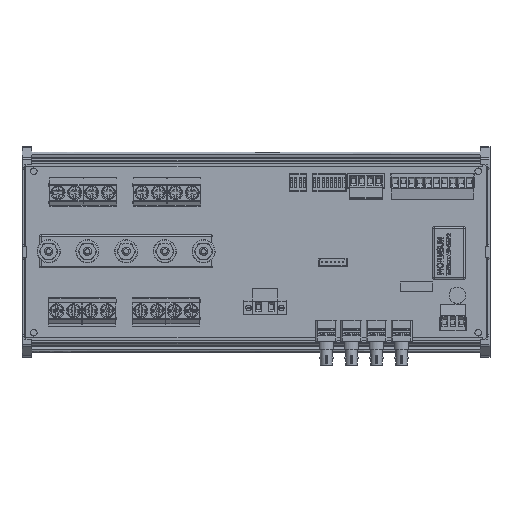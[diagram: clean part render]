
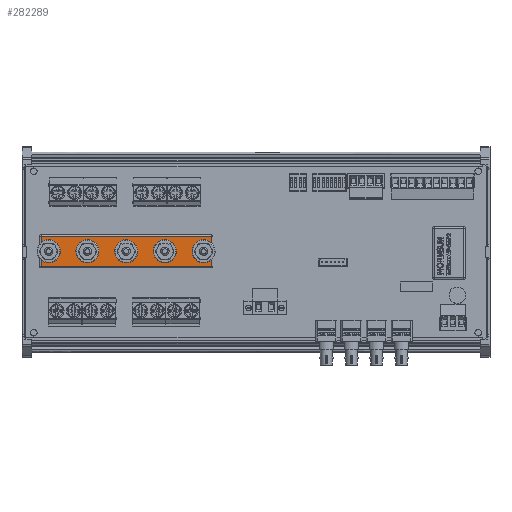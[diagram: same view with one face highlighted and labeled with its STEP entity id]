
A CAD part, top view. The second image highlights one B-rep face of the part: STEP entity #282289.
In plain terms, the highlighted planar face has unit normal (0, 0, 1).
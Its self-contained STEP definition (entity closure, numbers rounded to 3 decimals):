
#281712 = CYLINDRICAL_SURFACE('',#281713,1.);
#281713 = AXIS2_PLACEMENT_3D('',#281714,#281715,#281716);
#281714 = CARTESIAN_POINT('',(1.,0.,4.));
#281715 = DIRECTION('',(0.,1.,0.));
#281716 = DIRECTION('',(-1.,0.,0.));
#281895 = VERTEX_POINT('',#281896);
#281896 = CARTESIAN_POINT('',(1.,1.,5.));
#281916 = EDGE_CURVE('',#281895,#281917,#281919,.T.);
#281917 = VERTEX_POINT('',#281918);
#281918 = CARTESIAN_POINT('',(1.,19.,5.));
#281919 = SURFACE_CURVE('',#281920,(#281924,#281931),.PCURVE_S1.);
#281920 = LINE('',#281921,#281922);
#281921 = CARTESIAN_POINT('',(1.,0.,5.));
#281922 = VECTOR('',#281923,1.);
#281923 = DIRECTION('',(0.,1.,0.));
#281924 = PCURVE('',#281712,#281925);
#281925 = DEFINITIONAL_REPRESENTATION('',(#281926),#281930);
#281926 = LINE('',#281927,#281928);
#281927 = CARTESIAN_POINT('',(1.571,0.));
#281928 = VECTOR('',#281929,1.);
#281929 = DIRECTION('',(0.,1.));
#281930 = ( GEOMETRIC_REPRESENTATION_CONTEXT(2) 
PARAMETRIC_REPRESENTATION_CONTEXT() REPRESENTATION_CONTEXT('2D SPACE',''
  ) );
#281931 = PCURVE('',#281932,#281937);
#281932 = PLANE('',#281933);
#281933 = AXIS2_PLACEMENT_3D('',#281934,#281935,#281936);
#281934 = CARTESIAN_POINT('',(0.,0.,5.));
#281935 = DIRECTION('',(0.,0.,1.));
#281936 = DIRECTION('',(1.,0.,0.));
#281937 = DEFINITIONAL_REPRESENTATION('',(#281938),#281942);
#281938 = LINE('',#281939,#281940);
#281939 = CARTESIAN_POINT('',(1.,0.));
#281940 = VECTOR('',#281941,1.);
#281941 = DIRECTION('',(0.,1.));
#281942 = ( GEOMETRIC_REPRESENTATION_CONTEXT(2) 
PARAMETRIC_REPRESENTATION_CONTEXT() REPRESENTATION_CONTEXT('2D SPACE',''
  ) );
#282096 = CYLINDRICAL_SURFACE('',#282097,1.);
#282097 = AXIS2_PLACEMENT_3D('',#282098,#282099,#282100);
#282098 = CARTESIAN_POINT('',(0.,1.,4.));
#282099 = DIRECTION('',(1.,0.,0.));
#282100 = DIRECTION('',(0.,-1.,0.));
#282289 = ADVANCED_FACE('',(#282290),#281932,.T.);
#282290 = FACE_BOUND('',#282291,.T.);
#282291 = EDGE_LOOP('',(#282292,#282293,#282316,#282344));
#282292 = ORIENTED_EDGE('',*,*,#281916,.F.);
#282293 = ORIENTED_EDGE('',*,*,#282294,.T.);
#282294 = EDGE_CURVE('',#281895,#282295,#282297,.T.);
#282295 = VERTEX_POINT('',#282296);
#282296 = CARTESIAN_POINT('',(104.3,1.,5.));
#282297 = SURFACE_CURVE('',#282298,(#282302,#282309),.PCURVE_S1.);
#282298 = LINE('',#282299,#282300);
#282299 = CARTESIAN_POINT('',(0.,1.,5.));
#282300 = VECTOR('',#282301,1.);
#282301 = DIRECTION('',(1.,0.,0.));
#282302 = PCURVE('',#281932,#282303);
#282303 = DEFINITIONAL_REPRESENTATION('',(#282304),#282308);
#282304 = LINE('',#282305,#282306);
#282305 = CARTESIAN_POINT('',(0.,1.));
#282306 = VECTOR('',#282307,1.);
#282307 = DIRECTION('',(1.,0.));
#282308 = ( GEOMETRIC_REPRESENTATION_CONTEXT(2) 
PARAMETRIC_REPRESENTATION_CONTEXT() REPRESENTATION_CONTEXT('2D SPACE',''
  ) );
#282309 = PCURVE('',#282096,#282310);
#282310 = DEFINITIONAL_REPRESENTATION('',(#282311),#282315);
#282311 = LINE('',#282312,#282313);
#282312 = CARTESIAN_POINT('',(4.712,0.));
#282313 = VECTOR('',#282314,1.);
#282314 = DIRECTION('',(0.,1.));
#282315 = ( GEOMETRIC_REPRESENTATION_CONTEXT(2) 
PARAMETRIC_REPRESENTATION_CONTEXT() REPRESENTATION_CONTEXT('2D SPACE',''
  ) );
#282316 = ORIENTED_EDGE('',*,*,#282317,.T.);
#282317 = EDGE_CURVE('',#282295,#282318,#282320,.T.);
#282318 = VERTEX_POINT('',#282319);
#282319 = CARTESIAN_POINT('',(104.3,19.,5.));
#282320 = SURFACE_CURVE('',#282321,(#282325,#282332),.PCURVE_S1.);
#282321 = LINE('',#282322,#282323);
#282322 = CARTESIAN_POINT('',(104.3,0.,5.));
#282323 = VECTOR('',#282324,1.);
#282324 = DIRECTION('',(0.,1.,0.));
#282325 = PCURVE('',#281932,#282326);
#282326 = DEFINITIONAL_REPRESENTATION('',(#282327),#282331);
#282327 = LINE('',#282328,#282329);
#282328 = CARTESIAN_POINT('',(104.3,0.));
#282329 = VECTOR('',#282330,1.);
#282330 = DIRECTION('',(0.,1.));
#282331 = ( GEOMETRIC_REPRESENTATION_CONTEXT(2) 
PARAMETRIC_REPRESENTATION_CONTEXT() REPRESENTATION_CONTEXT('2D SPACE',''
  ) );
#282332 = PCURVE('',#282333,#282338);
#282333 = CYLINDRICAL_SURFACE('',#282334,1.);
#282334 = AXIS2_PLACEMENT_3D('',#282335,#282336,#282337);
#282335 = CARTESIAN_POINT('',(104.3,0.,4.));
#282336 = DIRECTION('',(0.,1.,0.));
#282337 = DIRECTION('',(1.,0.,0.));
#282338 = DEFINITIONAL_REPRESENTATION('',(#282339),#282343);
#282339 = LINE('',#282340,#282341);
#282340 = CARTESIAN_POINT('',(4.712,0.));
#282341 = VECTOR('',#282342,1.);
#282342 = DIRECTION('',(0.,1.));
#282343 = ( GEOMETRIC_REPRESENTATION_CONTEXT(2) 
PARAMETRIC_REPRESENTATION_CONTEXT() REPRESENTATION_CONTEXT('2D SPACE',''
  ) );
#282344 = ORIENTED_EDGE('',*,*,#282345,.F.);
#282345 = EDGE_CURVE('',#281917,#282318,#282346,.T.);
#282346 = SURFACE_CURVE('',#282347,(#282351,#282358),.PCURVE_S1.);
#282347 = LINE('',#282348,#282349);
#282348 = CARTESIAN_POINT('',(0.,19.,5.));
#282349 = VECTOR('',#282350,1.);
#282350 = DIRECTION('',(1.,0.,0.));
#282351 = PCURVE('',#281932,#282352);
#282352 = DEFINITIONAL_REPRESENTATION('',(#282353),#282357);
#282353 = LINE('',#282354,#282355);
#282354 = CARTESIAN_POINT('',(0.,19.));
#282355 = VECTOR('',#282356,1.);
#282356 = DIRECTION('',(1.,0.));
#282357 = ( GEOMETRIC_REPRESENTATION_CONTEXT(2) 
PARAMETRIC_REPRESENTATION_CONTEXT() REPRESENTATION_CONTEXT('2D SPACE',''
  ) );
#282358 = PCURVE('',#282359,#282364);
#282359 = CYLINDRICAL_SURFACE('',#282360,1.);
#282360 = AXIS2_PLACEMENT_3D('',#282361,#282362,#282363);
#282361 = CARTESIAN_POINT('',(0.,19.,4.));
#282362 = DIRECTION('',(1.,0.,0.));
#282363 = DIRECTION('',(0.,1.,0.));
#282364 = DEFINITIONAL_REPRESENTATION('',(#282365),#282369);
#282365 = LINE('',#282366,#282367);
#282366 = CARTESIAN_POINT('',(1.571,0.));
#282367 = VECTOR('',#282368,1.);
#282368 = DIRECTION('',(0.,1.));
#282369 = ( GEOMETRIC_REPRESENTATION_CONTEXT(2) 
PARAMETRIC_REPRESENTATION_CONTEXT() REPRESENTATION_CONTEXT('2D SPACE',''
  ) );
